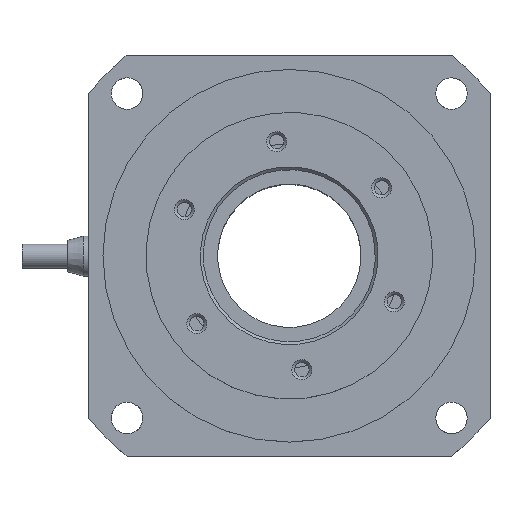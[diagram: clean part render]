
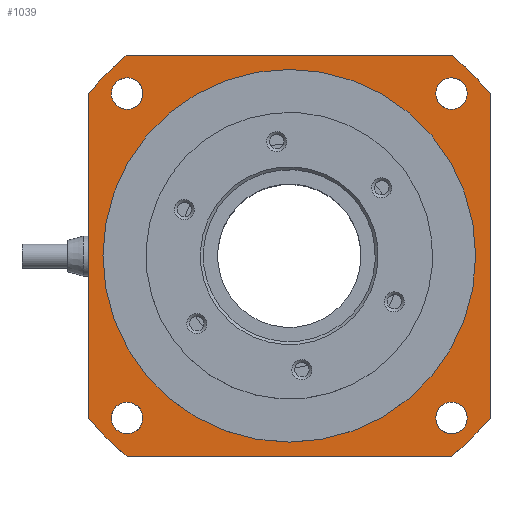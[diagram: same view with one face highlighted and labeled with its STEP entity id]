
A CAD part, top view. The second image highlights one B-rep face of the part: STEP entity #1039.
In plain terms, the highlighted planar face has unit normal (0, 0, 1).
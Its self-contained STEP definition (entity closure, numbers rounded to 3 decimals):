
#1039=ADVANCED_FACE('',(#2050,#2051,#2052,#2053,#2054,#2055),#2056,.T.);
#2050=FACE_BOUND('',#3127,.T.);
#2051=FACE_BOUND('',#3128,.T.);
#2052=FACE_BOUND('',#3129,.T.);
#2053=FACE_BOUND('',#3130,.T.);
#2054=FACE_BOUND('',#3131,.T.);
#2055=FACE_OUTER_BOUND('',#3132,.T.);
#2056=PLANE('',#3133);
#3127=EDGE_LOOP('',(#4870));
#3128=EDGE_LOOP('',(#4871));
#3129=EDGE_LOOP('',(#4872));
#3130=EDGE_LOOP('',(#4873));
#3131=EDGE_LOOP('',(#4874));
#3132=EDGE_LOOP('',(#4875,#4876,#4877,#4878,#4879,#4880,#4881,#4882));
#3133=AXIS2_PLACEMENT_3D('',#4883,#4884,#4885);
#4870=ORIENTED_EDGE('',*,*,#5518,.F.);
#4871=ORIENTED_EDGE('',*,*,#5521,.F.);
#4872=ORIENTED_EDGE('',*,*,#5524,.F.);
#4873=ORIENTED_EDGE('',*,*,#5527,.F.);
#4874=ORIENTED_EDGE('',*,*,#5610,.F.);
#4875=ORIENTED_EDGE('',*,*,#5600,.T.);
#4876=ORIENTED_EDGE('',*,*,#5596,.T.);
#4877=ORIENTED_EDGE('',*,*,#5586,.T.);
#4878=ORIENTED_EDGE('',*,*,#5592,.T.);
#4879=ORIENTED_EDGE('',*,*,#5612,.T.);
#4880=ORIENTED_EDGE('',*,*,#5613,.T.);
#4881=ORIENTED_EDGE('',*,*,#5614,.T.);
#4882=ORIENTED_EDGE('',*,*,#5615,.T.);
#4883=CARTESIAN_POINT('',(0.,0.,5.0));
#4884=DIRECTION('',(0.0,0.0,1.0));
#4885=DIRECTION('',(1.0,0.0,0.0));
#5518=EDGE_CURVE('',#6454,#6454,#6455,.T.);
#5521=EDGE_CURVE('',#6459,#6459,#6460,.T.);
#5524=EDGE_CURVE('',#6464,#6464,#6465,.T.);
#5527=EDGE_CURVE('',#6469,#6469,#6470,.T.);
#5586=EDGE_CURVE('',#6561,#6559,#6562,.T.);
#5592=EDGE_CURVE('',#6559,#6568,#6570,.T.);
#5596=EDGE_CURVE('',#6575,#6561,#6576,.T.);
#5600=EDGE_CURVE('',#6581,#6575,#6582,.T.);
#5610=EDGE_CURVE('',#6594,#6594,#6595,.T.);
#5612=EDGE_CURVE('',#6568,#6597,#6598,.T.);
#5613=EDGE_CURVE('',#6597,#6599,#6600,.T.);
#5614=EDGE_CURVE('',#6599,#6601,#6602,.T.);
#5615=EDGE_CURVE('',#6601,#6581,#6603,.T.);
#6454=VERTEX_POINT('',#8274);
#6455=CIRCLE('',#8275,2.75);
#6459=VERTEX_POINT('',#8279);
#6460=CIRCLE('',#8280,2.75);
#6464=VERTEX_POINT('',#8284);
#6465=CIRCLE('',#8285,2.75);
#6469=VERTEX_POINT('',#8289);
#6470=CIRCLE('',#8290,2.75);
#6559=VERTEX_POINT('',#8615);
#6561=VERTEX_POINT('',#8618);
#6562=CIRCLE('',#8619,45.0);
#6568=VERTEX_POINT('',#8628);
#6570=LINE('',#8631,#8632);
#6575=VERTEX_POINT('',#8639);
#6576=LINE('',#8640,#8641);
#6581=VERTEX_POINT('',#8647);
#6582=CIRCLE('',#8648,45.0);
#6594=VERTEX_POINT('',#8663);
#6595=CIRCLE('',#8664,32.5);
#6597=VERTEX_POINT('',#8666);
#6598=CIRCLE('',#8667,45.0);
#6599=VERTEX_POINT('',#8668);
#6600=LINE('',#8669,#8670);
#6601=VERTEX_POINT('',#8671);
#6602=CIRCLE('',#8672,45.0);
#6603=LINE('',#8673,#8674);
#8274=CARTESIAN_POINT('',(30.229,-30.229,5.0));
#8275=AXIS2_PLACEMENT_3D('',#9304,#9305,#9306);
#8279=CARTESIAN_POINT('',(-30.229,-30.229,5.0));
#8280=AXIS2_PLACEMENT_3D('',#9310,#9311,#9312);
#8284=CARTESIAN_POINT('',(-30.229,30.229,5.0));
#8285=AXIS2_PLACEMENT_3D('',#9316,#9317,#9318);
#8289=CARTESIAN_POINT('',(30.229,30.229,5.0));
#8290=AXIS2_PLACEMENT_3D('',#9322,#9323,#9324);
#8615=CARTESIAN_POINT('',(35.0,-28.284,5.0));
#8618=CARTESIAN_POINT('',(28.284,-35.0,5.0));
#8619=AXIS2_PLACEMENT_3D('',#9401,#9402,#9403);
#8628=CARTESIAN_POINT('',(35.0,28.284,5.0));
#8631=CARTESIAN_POINT('',(35.0,0.,5.0));
#8632=VECTOR('',#9408,1.0);
#8639=CARTESIAN_POINT('',(-28.284,-35.0,5.0));
#8640=CARTESIAN_POINT('',(0.,-35.0,5.0));
#8641=VECTOR('',#9411,1.0);
#8647=CARTESIAN_POINT('',(-35.0,-28.284,5.0));
#8648=AXIS2_PLACEMENT_3D('',#9416,#9417,#9418);
#8663=CARTESIAN_POINT('',(32.5,0.0,5.0));
#8664=AXIS2_PLACEMENT_3D('',#9428,#9429,#9430);
#8666=CARTESIAN_POINT('',(28.284,35.0,5.0));
#8667=AXIS2_PLACEMENT_3D('',#9431,#9432,#9433);
#8668=CARTESIAN_POINT('',(-28.284,35.0,5.0));
#8669=CARTESIAN_POINT('',(0.,35.0,5.0));
#8670=VECTOR('',#9434,1.0);
#8671=CARTESIAN_POINT('',(-35.0,28.284,5.0));
#8672=AXIS2_PLACEMENT_3D('',#9435,#9436,#9437);
#8673=CARTESIAN_POINT('',(-35.0,0.,5.0));
#8674=VECTOR('',#9438,1.0);
#9304=CARTESIAN_POINT('',(28.284,-28.284,5.0));
#9305=DIRECTION('',(0.0,0.0,1.0));
#9306=DIRECTION('',(0.707,-0.707,0.0));
#9310=CARTESIAN_POINT('',(-28.284,-28.284,5.0));
#9311=DIRECTION('',(0.0,0.0,1.0));
#9312=DIRECTION('',(-0.707,-0.707,0.0));
#9316=CARTESIAN_POINT('',(-28.284,28.284,5.0));
#9317=DIRECTION('',(0.0,0.0,1.0));
#9318=DIRECTION('',(-0.707,0.707,0.0));
#9322=CARTESIAN_POINT('',(28.284,28.284,5.0));
#9323=DIRECTION('',(0.0,-0.0,1.0));
#9324=DIRECTION('',(0.707,0.707,0.0));
#9401=CARTESIAN_POINT('',(0.,0.,5.0));
#9402=DIRECTION('',(0.0,0.0,1.0));
#9403=DIRECTION('',(1.0,0.0,0.0));
#9408=DIRECTION('',(0.,1.0,0.0));
#9411=DIRECTION('',(1.0,0.0,0.0));
#9416=CARTESIAN_POINT('',(0.,0.,5.0));
#9417=DIRECTION('',(0.0,0.0,1.0));
#9418=DIRECTION('',(1.0,0.0,0.0));
#9428=CARTESIAN_POINT('',(0.0,0.0,5.0));
#9429=DIRECTION('',(0.0,0.0,1.0));
#9430=DIRECTION('',(1.0,0.0,0.0));
#9431=CARTESIAN_POINT('',(0.,0.,5.0));
#9432=DIRECTION('',(0.0,0.0,1.0));
#9433=DIRECTION('',(1.0,0.0,0.0));
#9434=DIRECTION('',(-1.0,0.,0.0));
#9435=CARTESIAN_POINT('',(0.,0.,5.0));
#9436=DIRECTION('',(0.0,0.0,1.0));
#9437=DIRECTION('',(1.0,0.0,0.0));
#9438=DIRECTION('',(0.,-1.0,0.0));
